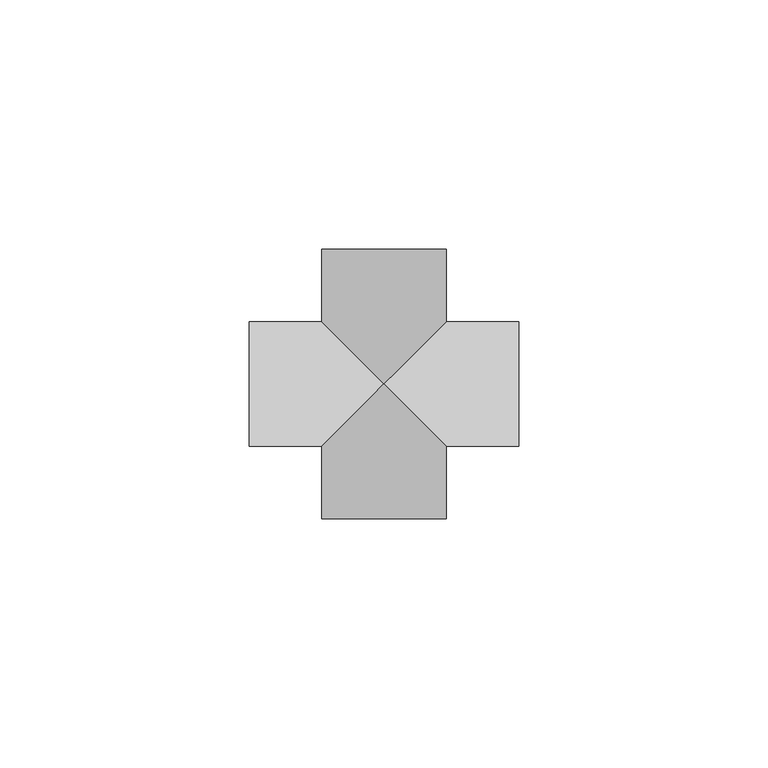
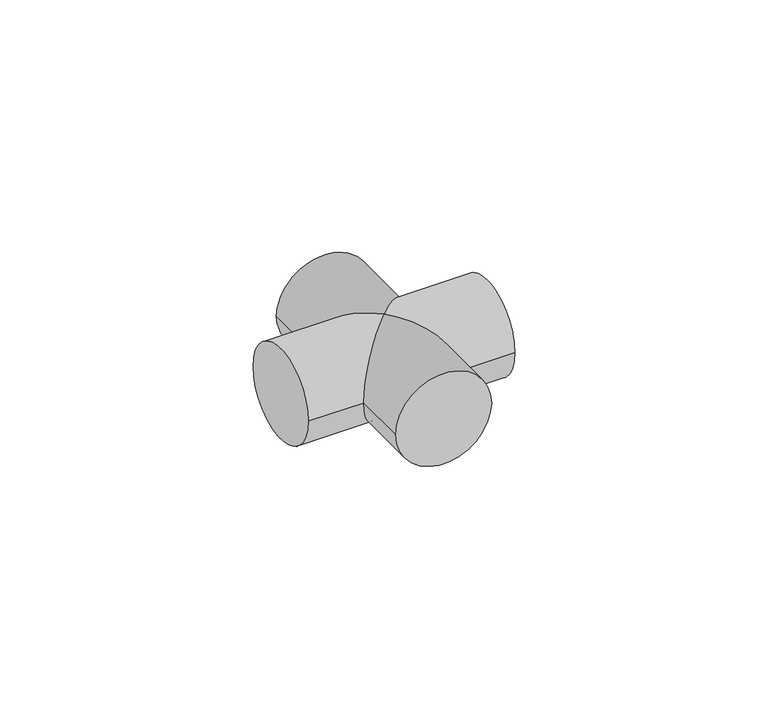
"""IFC4 building model written with IfcOpenShell, lengths in millimetres: pipe fitting geometry, 01051068 : Cruzetas."""

from ifc_helpers import new_model, si_unit, frame, origin, place, context, project, spatial, circle_curve, ellipse_curve, source, transform, mapped, element, save
from ifc_brep_helpers import plane_surface, cylinder_surface, advanced_brep


def pipe_fitting_21e6b21f(model_context):
    return source(origin(), model_context, "Body", "AdvancedBrep", [
        advanced_brep(
        [(-12.5, 27.0, 0.0), (12.5, 27.0, 0.0), (-12.5, -27.0, 0.0), (12.5, -27.0, 0.0), (-12.5, 12.5, 0.0), (0.0, 0.0, 12.5), (12.5, 12.5, 0.0), (12.5, -12.5, 0.0), (-12.5, -12.5, 0.0), (0.0, 0.0, -12.5), (27.0, 12.5, 0.0), (27.0, -12.5, 0.0), (-27.0, 12.5, 0.0), (-27.0, -12.5, 0.0)],
        [
            (0, 1, circle_curve(frame((0.0, 27.0, 0.0), z_axis=(0.0, 1.0, 0.0), x_axis=(1.0, 0.0, 0.0)), 12.5)),
            (1, 0, circle_curve(frame((0.0, 27.0, 0.0), z_axis=(0.0, 1.0, 0.0), x_axis=(1.0, 0.0, 0.0)), 12.5)),
            (2, 3, circle_curve(frame((0.0, -27.0, 0.0), z_axis=(0.0, -1.0, 0.0), x_axis=(1.0, 0.0, 0.0)), 12.5)),
            (3, 2, circle_curve(frame((0.0, -27.0, 0.0), z_axis=(0.0, -1.0, 0.0), x_axis=(1.0, 0.0, 0.0)), 12.5)),
            (0, 4),
            (4, 5, ellipse_curve(frame((0.0, 0.0, 0.0), z_axis=(0.7071067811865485, 0.7071067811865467, 0.0), x_axis=(-0.7071067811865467, 0.7071067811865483, 0.0)), 17.6776695, 12.5)),
            (5, 6, ellipse_curve(frame((0.0, 0.0, 0.0), z_axis=(-0.7071067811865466, 0.7071067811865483, 0.0), x_axis=(0.7071067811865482, 0.7071067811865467, 0.0)), 17.6776695, 12.5)),
            (6, 1),
            (3, 7),
            (7, 5, ellipse_curve(frame((0.0, 0.0, 0.0), z_axis=(-0.7071067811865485, -0.7071067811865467, 0.0), x_axis=(-0.7071067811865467, 0.7071067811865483, 0.0)), 17.6776695, 12.5)),
            (5, 8, ellipse_curve(frame((0.0, 0.0, 0.0), z_axis=(0.7071067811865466, -0.7071067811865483, 0.0), x_axis=(0.7071067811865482, 0.7071067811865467, 0.0)), 17.6776695, 12.5)),
            (8, 2),
            (6, 9, ellipse_curve(frame((0.0, 0.0, 0.0), z_axis=(-0.7071067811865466, 0.7071067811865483, 0.0), x_axis=(0.7071067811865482, 0.7071067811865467, 0.0)), 17.6776695, 12.5)),
            (9, 4, ellipse_curve(frame((0.0, 0.0, 0.0), z_axis=(0.7071067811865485, 0.7071067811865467, 0.0), x_axis=(-0.7071067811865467, 0.7071067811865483, 0.0)), 17.6776695, 12.5)),
            (8, 9, ellipse_curve(frame((0.0, 0.0, 0.0), z_axis=(0.7071067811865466, -0.7071067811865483, 0.0), x_axis=(0.7071067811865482, 0.7071067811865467, 0.0)), 17.6776695, 12.5)),
            (9, 7, ellipse_curve(frame((0.0, 0.0, 0.0), z_axis=(-0.7071067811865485, -0.7071067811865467, 0.0), x_axis=(-0.7071067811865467, 0.7071067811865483, 0.0)), 17.6776695, 12.5)),
            (10, 11, circle_curve(frame((27.0, 0.0, 0.0), z_axis=(1.0, 0.0, 0.0), x_axis=(0.0, -1.0, 0.0)), 12.5)),
            (11, 10, circle_curve(frame((27.0, 0.0, 0.0), z_axis=(1.0, 0.0, 0.0), x_axis=(0.0, -1.0, 0.0)), 12.5)),
            (12, 13, circle_curve(frame((-27.0, 0.0, 0.0), z_axis=(-1.0, 0.0, 0.0), x_axis=(0.0, -1.0, 0.0)), 12.5)),
            (13, 12, circle_curve(frame((-27.0, 0.0, 0.0), z_axis=(-1.0, 0.0, 0.0), x_axis=(0.0, -1.0, 0.0)), 12.5)),
            (10, 6),
            (7, 11),
            (13, 8),
            (4, 12),
        ],
        [
            plane_surface(frame((0.0, 27.0, 0.0), z_axis=(0.0, 1.0, 0.0), x_axis=(0.0, 0.0, 1.0))),
            plane_surface(frame((0.0, -27.0, 0.0), z_axis=(0.0, -1.0, 0.0), x_axis=(0.0, 0.0, 1.0))),
            cylinder_surface(frame((0.0, 27.0, 0.0), z_axis=(0.0, 1.0, 0.0), x_axis=(1.0, 0.0, 0.0)), 12.5),
            plane_surface(frame((27.0, 0.0, 0.0), z_axis=(1.0, 0.0, 0.0), x_axis=(0.0, 0.0, 1.0))),
            plane_surface(frame((-27.0, 0.0, 0.0), z_axis=(-1.0, 0.0, 0.0), x_axis=(0.0, 0.0, 1.0))),
            cylinder_surface(frame((27.0, 0.0, 0.0), z_axis=(1.0, 0.0, 0.0), x_axis=(0.0, -1.0, 0.0)), 12.5),
        ],
        [
            (0, [[1, 2]]),
            (1, [[3, 4]]),
            (2, [[-1, 5, 6, 7, 8]]),
            (2, [[-4, 9, 10, 11, 12]]),
            (2, [[-2, -8, 13, 14, -5]]),
            (2, [[-3, -12, 15, 16, -9]]),
            (3, [[17, 18]]),
            (4, [[19, 20]]),
            (5, [[-17, 21, -7, -10, 22]]),
            (5, [[-20, 23, -11, -6, 24]]),
            (5, [[-18, -22, -16, -13, -21]]),
            (5, [[-19, -24, -14, -15, -23]]),
        ],
    ),
    ])


if __name__ == "__main__":
    model = new_model("IFC4")
    model_context = context("Model", 3, world=origin())
    ifc_project = project(units=[si_unit("LENGTHUNIT", "METRE", prefix="MILLI")], contexts=[model_context])
    site = spatial("IfcSite", under=ifc_project)
    building = spatial("IfcBuilding", under=site)
    placement = place(None, origin())
    pipe_fitting_shape = pipe_fitting_21e6b21f(model_context)
    element("IfcPipeFitting", 1, ObjectType="01051068 : Cruzetas", at=placement, inside=building, context=model_context, shape_type="MappedRepresentation", body=[
        mapped(pipe_fitting_shape, transform((0.0, 0.0, 0.0), x_axis=(1.0, 0.0, 0.0), y_axis=(0.0, 1.0, 0.0), z_axis=(0.0, 0.0, 1.0))),
    ])
    save(model, "model.ifc")
